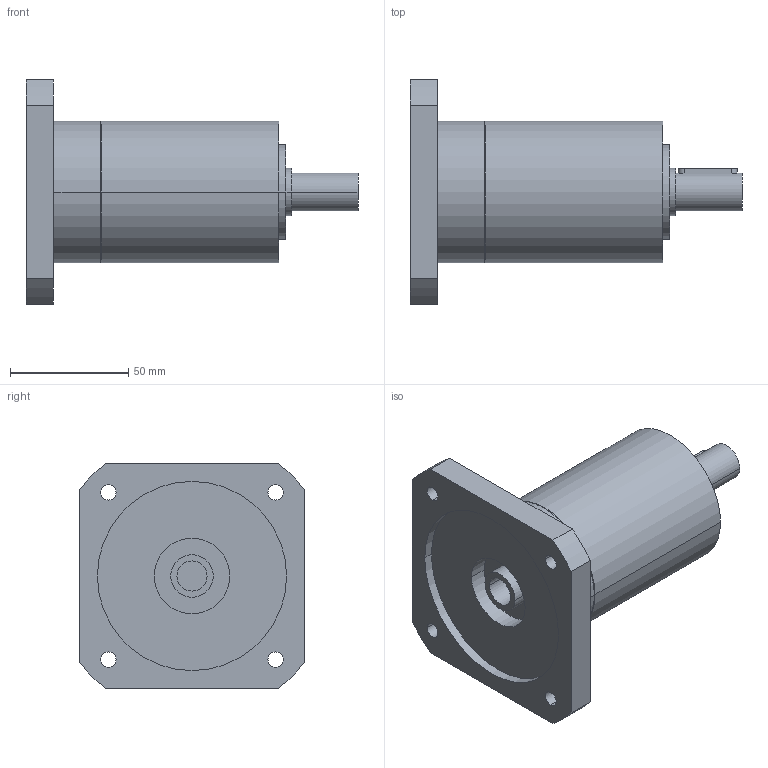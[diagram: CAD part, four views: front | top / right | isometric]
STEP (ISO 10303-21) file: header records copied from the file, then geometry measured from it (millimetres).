
FILE_DESCRIPTION(('CoCreate Modeling STEP Export'),'2;1');
FILE_NAME('GPR75_ig-9-12-16-20-24-30-36_16_B14_12.7_P07.stp','2014-08-25T16:02:17',(''),(''),'CoCreate Modeling STEP processor for AP214 (Solid Model)','CoCreate Modeling 16.00C 25-Feb-2009 (C) Parametric Technology GmbH','');
FILE_SCHEMA(('AUTOMOTIVE_DESIGN { 1 0 10303 214 1 1 1 1 }'));
Length unit declared in the file: millimetre
Products named in the file (2): GPR75_ig-9-12-16-20-24-30-36_16_B14_12.7_P07
Assembly tree (1 placements, depth 2):
  GPR75_ig-9-12-16-20-24-30-36_16_B14_12.7_P07
    GPR75_ig-9-12-16-20-24-30-36_16_B14_12.7_P07
Bounding box: 140.4 x 95 x 95 mm (x, y, z)
Volume: 350882.7 mm3; surface area: 46650.6 mm2
Topology: 1 solids, 1 shells, 70 faces, 186 edges, 130 vertices
Faces by surface type: cylinder 42, plane 22, cone 6
Entity records: 1929 total; most frequent: ORIENTED_EDGE 368, CARTESIAN_POINT 358, DIRECTION 262, EDGE_CURVE 184, VERTEX_POINT 130, AXIS2_PLACEMENT_3D 98, EDGE_LOOP 92, FACE_OUTER_BOUND 70
